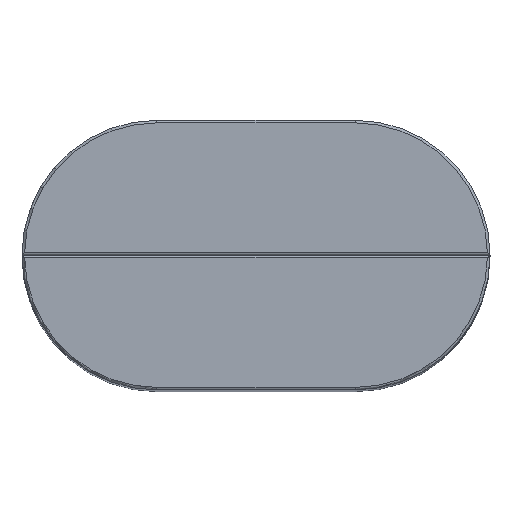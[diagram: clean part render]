
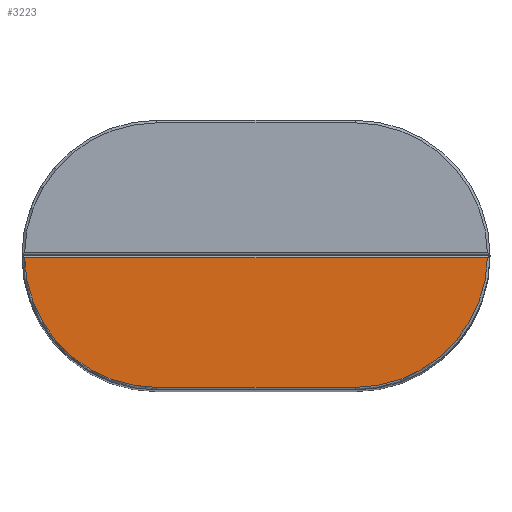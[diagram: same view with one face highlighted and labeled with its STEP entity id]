
A CAD part, top view. The second image highlights one B-rep face of the part: STEP entity #3223.
In plain terms, the highlighted planar face has unit normal (0, 0, 1).
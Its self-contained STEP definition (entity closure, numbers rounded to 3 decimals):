
#102 = DIRECTION ( 'NONE',  ( 0., 0., 1. ) ) ;
#113 = ORIENTED_EDGE ( 'NONE', *, *, #1485, .T. ) ;
#206 = DIRECTION ( 'NONE',  ( 1., 0., 0. ) ) ;
#356 = EDGE_CURVE ( 'NONE', #4968, #3498, #4179, .T. ) ;
#802 = DIRECTION ( 'NONE',  ( 0., 0., 1. ) ) ;
#874 = CARTESIAN_POINT ( 'NONE',  ( 7.8, 0., 39. ) ) ;
#1043 = AXIS2_PLACEMENT_3D ( 'NONE', #1692, #4405, #2075 ) ;
#1458 = CARTESIAN_POINT ( 'NONE',  ( -18.198, 0.2, 39. ) ) ;
#1464 = CARTESIAN_POINT ( 'NONE',  ( -7.8, 10.4, 39. ) ) ;
#1485 = EDGE_CURVE ( 'NONE', #3498, #4236, #1668, .T. ) ;
#1668 = CIRCLE ( 'NONE', #1043, 10.4 ) ;
#1692 = CARTESIAN_POINT ( 'NONE',  ( 7.8, 0., 39. ) ) ;
#2075 = DIRECTION ( 'NONE',  ( 1., 0., 0. ) ) ;
#2375 = VERTEX_POINT ( 'NONE', #1464 ) ;
#2748 = FACE_OUTER_BOUND ( 'NONE', #2947, .T. ) ;
#2781 = DIRECTION ( 'NONE',  ( -1., 0., 0. ) ) ;
#2806 = ORIENTED_EDGE ( 'NONE', *, *, #356, .T. ) ;
#2851 = DIRECTION ( 'NONE',  ( 1., 0., 0. ) ) ;
#2947 = EDGE_LOOP ( 'NONE', ( #4086, #3058, #2806, #113 ) ) ;
#2949 = CARTESIAN_POINT ( 'NONE',  ( 7.8, 0.2, 39. ) ) ;
#2997 = EDGE_CURVE ( 'NONE', #2375, #4968, #3878, .T. ) ;
#3058 = ORIENTED_EDGE ( 'NONE', *, *, #2997, .T. ) ;
#3119 = EDGE_CURVE ( 'NONE', #4236, #2375, #3475, .T. ) ;
#3154 = CARTESIAN_POINT ( 'NONE',  ( -7.8, 0., 39. ) ) ;
#3172 = VECTOR ( 'NONE', #2781, 1000. ) ;
#3223 = ADVANCED_FACE ( 'NONE', ( #2748 ), #4756, .T. ) ;
#3475 = LINE ( 'NONE', #4325, #3172 ) ;
#3498 = VERTEX_POINT ( 'NONE', #4374 ) ;
#3532 = DIRECTION ( 'NONE',  ( 1., 0., 0. ) ) ;
#3571 = CARTESIAN_POINT ( 'NONE',  ( 7.8, 10.4, 39. ) ) ;
#3878 = CIRCLE ( 'NONE', #4603, 10.4 ) ;
#4086 = ORIENTED_EDGE ( 'NONE', *, *, #3119, .T. ) ;
#4179 = LINE ( 'NONE', #2949, #4961 ) ;
#4236 = VERTEX_POINT ( 'NONE', #3571 ) ;
#4325 = CARTESIAN_POINT ( 'NONE',  ( 7.8, 10.4, 39. ) ) ;
#4374 = CARTESIAN_POINT ( 'NONE',  ( 18.198, 0.2, 39. ) ) ;
#4405 = DIRECTION ( 'NONE',  ( 0., 0., 1. ) ) ;
#4526 = AXIS2_PLACEMENT_3D ( 'NONE', #874, #102, #2851 ) ;
#4603 = AXIS2_PLACEMENT_3D ( 'NONE', #3154, #802, #3532 ) ;
#4756 = PLANE ( 'NONE',  #4526 ) ;
#4961 = VECTOR ( 'NONE', #206, 1000. ) ;
#4968 = VERTEX_POINT ( 'NONE', #1458 ) ;
